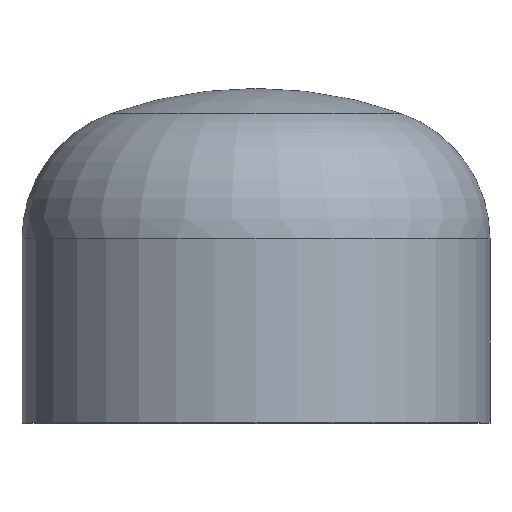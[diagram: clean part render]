
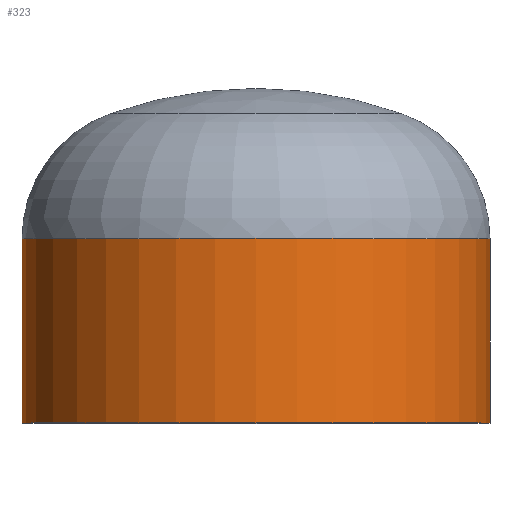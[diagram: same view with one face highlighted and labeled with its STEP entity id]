
A CAD part, top view. The second image highlights one B-rep face of the part: STEP entity #323.
In plain terms, the highlighted cylindrical face has radius 177.8 mm (diameter 355.6 mm), a partial arc.
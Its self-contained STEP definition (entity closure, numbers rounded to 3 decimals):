
#13 = AXIS2_PLACEMENT_3D ( 'NONE', #97, #48, #182 ) ;
#21 = VERTEX_POINT ( 'NONE', #258 ) ;
#22 = EDGE_LOOP ( 'NONE', ( #33, #135, #388, #404 ) ) ;
#33 = ORIENTED_EDGE ( 'NONE', *, *, #162, .T. ) ;
#41 = VERTEX_POINT ( 'NONE', #210 ) ;
#45 = VERTEX_POINT ( 'NONE', #213 ) ;
#48 = DIRECTION ( 'NONE',  ( 0., -1., 0. ) ) ;
#79 = CARTESIAN_POINT ( 'NONE',  ( -177.8, 0., 0. ) ) ;
#92 = CARTESIAN_POINT ( 'NONE',  ( 0., 0., 0. ) ) ;
#97 = CARTESIAN_POINT ( 'NONE',  ( 0., 0., 0. ) ) ;
#118 = VERTEX_POINT ( 'NONE', #305 ) ;
#126 = DIRECTION ( 'NONE',  ( 1., 0., 0. ) ) ;
#133 = AXIS2_PLACEMENT_3D ( 'NONE', #315, #314, #319 ) ;
#135 = ORIENTED_EDGE ( 'NONE', *, *, #382, .T. ) ;
#153 = LINE ( 'NONE', #79, #368 ) ;
#162 = EDGE_CURVE ( 'NONE', #41, #118, #363, .T. ) ;
#170 = CYLINDRICAL_SURFACE ( 'NONE', #13, 177.8 ) ;
#182 = DIRECTION ( 'NONE',  ( 1., 0., 0. ) ) ;
#194 = DIRECTION ( 'NONE',  ( 0., -1., 0. ) ) ;
#210 = CARTESIAN_POINT ( 'NONE',  ( 177.8, 140., 0. ) ) ;
#213 = CARTESIAN_POINT ( 'NONE',  ( -177.8, 0., 0. ) ) ;
#227 = VECTOR ( 'NONE', #410, 1000. ) ;
#234 = CIRCLE ( 'NONE', #277, 177.8 ) ;
#250 = FACE_OUTER_BOUND ( 'NONE', #22, .T. ) ;
#258 = CARTESIAN_POINT ( 'NONE',  ( 177.8, 0., 0. ) ) ;
#277 = AXIS2_PLACEMENT_3D ( 'NONE', #92, #303, #126 ) ;
#303 = DIRECTION ( 'NONE',  ( 0., -1., 0. ) ) ;
#305 = CARTESIAN_POINT ( 'NONE',  ( -177.8, 140., 0. ) ) ;
#314 = DIRECTION ( 'NONE',  ( 0., -1., 0. ) ) ;
#315 = CARTESIAN_POINT ( 'NONE',  ( 0., 140., 0. ) ) ;
#319 = DIRECTION ( 'NONE',  ( 1., 0., 0. ) ) ;
#323 = ADVANCED_FACE ( 'NONE', ( #250 ), #170, .T. ) ;
#363 = CIRCLE ( 'NONE', #133, 177.8 ) ;
#368 = VECTOR ( 'NONE', #194, 1000. ) ;
#377 = LINE ( 'NONE', #390, #227 ) ;
#379 = EDGE_CURVE ( 'NONE', #21, #45, #234, .T. ) ;
#382 = EDGE_CURVE ( 'NONE', #118, #45, #153, .T. ) ;
#388 = ORIENTED_EDGE ( 'NONE', *, *, #379, .F. ) ;
#390 = CARTESIAN_POINT ( 'NONE',  ( 177.8, 0., 0. ) ) ;
#394 = EDGE_CURVE ( 'NONE', #41, #21, #377, .T. ) ;
#404 = ORIENTED_EDGE ( 'NONE', *, *, #394, .F. ) ;
#410 = DIRECTION ( 'NONE',  ( 0., -1., 0. ) ) ;
